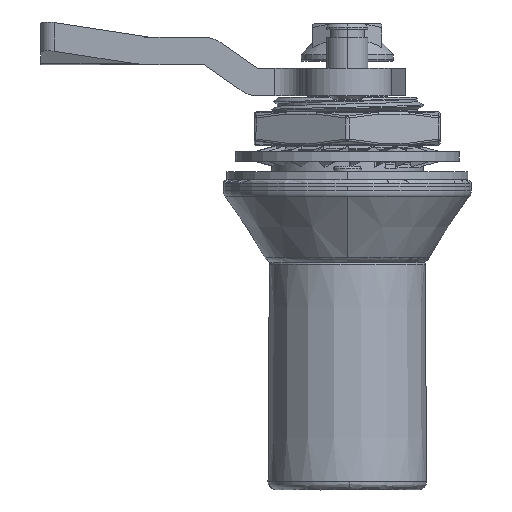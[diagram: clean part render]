
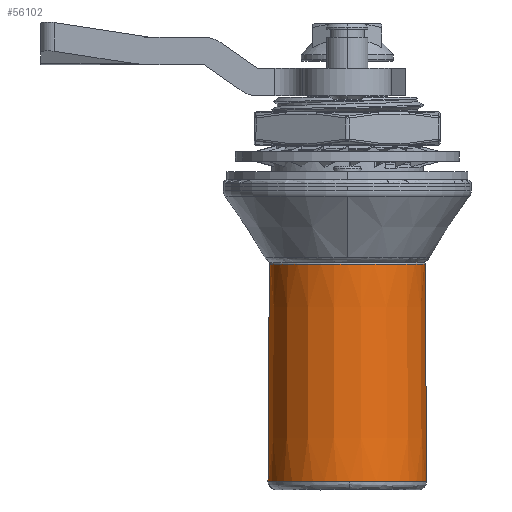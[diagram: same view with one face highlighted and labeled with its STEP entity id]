
A CAD part, front view. The second image highlights one B-rep face of the part: STEP entity #56102.
In plain terms, the highlighted conical face has half-angle 0.35 degrees and reference radius 11.509 mm.
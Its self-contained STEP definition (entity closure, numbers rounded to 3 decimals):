
#5035 = CARTESIAN_POINT ( 'NONE',  ( 0., -1.258, 0. ) ) ;
#8074 = CARTESIAN_POINT ( 'NONE',  ( -11.504, -1.258, -0.351 ) ) ;
#10997 = DIRECTION ( 'NONE',  ( 0., 1., 0.006 ) ) ;
#11032 = EDGE_CURVE ( 'NONE', #14043, #38217, #63271, .T. ) ;
#14043 = VERTEX_POINT ( 'NONE', #43118 ) ;
#15292 = ORIENTED_EDGE ( 'NONE', *, *, #11032, .T. ) ;
#18215 = ORIENTED_EDGE ( 'NONE', *, *, #86781, .F. ) ;
#20004 = AXIS2_PLACEMENT_3D ( 'NONE', #39418, #20078, #73715 ) ;
#20078 = DIRECTION ( 'NONE',  ( 0., 1., 0. ) ) ;
#21752 = DIRECTION ( 'NONE',  ( 0., 1., 0. ) ) ;
#21966 = DIRECTION ( 'NONE',  ( 0., 0., 1. ) ) ;
#22154 = VECTOR ( 'NONE', #10997, 1000. ) ;
#27460 = DIRECTION ( 'NONE',  ( 0., 0., -1. ) ) ;
#29100 = EDGE_LOOP ( 'NONE', ( #53870, #82548, #15292, #18215, #54985 ) ) ;
#31678 = LINE ( 'NONE', #73013, #73100 ) ;
#32591 = AXIS2_PLACEMENT_3D ( 'NONE', #34916, #21752, #27460 ) ;
#33274 = VERTEX_POINT ( 'NONE', #49702 ) ;
#34916 = CARTESIAN_POINT ( 'NONE',  ( 0., -32.801, 0. ) ) ;
#38217 = VERTEX_POINT ( 'NONE', #51247 ) ;
#39418 = CARTESIAN_POINT ( 'NONE',  ( 0., -1.258, 0. ) ) ;
#39582 = DIRECTION ( 'NONE',  ( 0., 1., -0.006 ) ) ;
#41796 = VERTEX_POINT ( 'NONE', #8074 ) ;
#43118 = CARTESIAN_POINT ( 'NONE',  ( 0., -32.801, 11.317 ) ) ;
#43530 = CARTESIAN_POINT ( 'NONE',  ( 0., -1.258, 0. ) ) ;
#44955 = VERTEX_POINT ( 'NONE', #65097 ) ;
#49702 = CARTESIAN_POINT ( 'NONE',  ( 0., -32.801, -11.317 ) ) ;
#51247 = CARTESIAN_POINT ( 'NONE',  ( 0., -1.258, 11.509 ) ) ;
#53634 = CONICAL_SURFACE ( 'NONE', #64865, 11.509, 0.006 ) ;
#53870 = ORIENTED_EDGE ( 'NONE', *, *, #72916, .F. ) ;
#54985 = ORIENTED_EDGE ( 'NONE', *, *, #59124, .F. ) ;
#56102 = ADVANCED_FACE ( 'NONE', ( #70930 ), #53634, .T. ) ;
#56270 = CARTESIAN_POINT ( 'NONE',  ( 0., -1.258, 11.509 ) ) ;
#57586 = DIRECTION ( 'NONE',  ( -1., 0., -0.03 ) ) ;
#57975 = CIRCLE ( 'NONE', #20004, 11.509 ) ;
#59124 = EDGE_CURVE ( 'NONE', #44955, #41796, #57975, .T. ) ;
#63271 = LINE ( 'NONE', #56270, #22154 ) ;
#64865 = AXIS2_PLACEMENT_3D ( 'NONE', #5035, #82171, #21966 ) ;
#65097 = CARTESIAN_POINT ( 'NONE',  ( 0., -1.258, -11.509 ) ) ;
#65234 = AXIS2_PLACEMENT_3D ( 'NONE', #43530, #70353, #57586 ) ;
#70353 = DIRECTION ( 'NONE',  ( 0., 1., 0. ) ) ;
#70523 = CIRCLE ( 'NONE', #32591, 11.317 ) ;
#70930 = FACE_OUTER_BOUND ( 'NONE', #29100, .T. ) ;
#72916 = EDGE_CURVE ( 'NONE', #33274, #44955, #31678, .T. ) ;
#73013 = CARTESIAN_POINT ( 'NONE',  ( 0., -1.258, -11.509 ) ) ;
#73100 = VECTOR ( 'NONE', #39582, 1000. ) ;
#73715 = DIRECTION ( 'NONE',  ( -1., 0., -0.03 ) ) ;
#75443 = EDGE_CURVE ( 'NONE', #33274, #14043, #70523, .T. ) ;
#82171 = DIRECTION ( 'NONE',  ( 0., 1., 0. ) ) ;
#82548 = ORIENTED_EDGE ( 'NONE', *, *, #75443, .T. ) ;
#84867 = CIRCLE ( 'NONE', #65234, 11.509 ) ;
#86781 = EDGE_CURVE ( 'NONE', #41796, #38217, #84867, .T. ) ;
